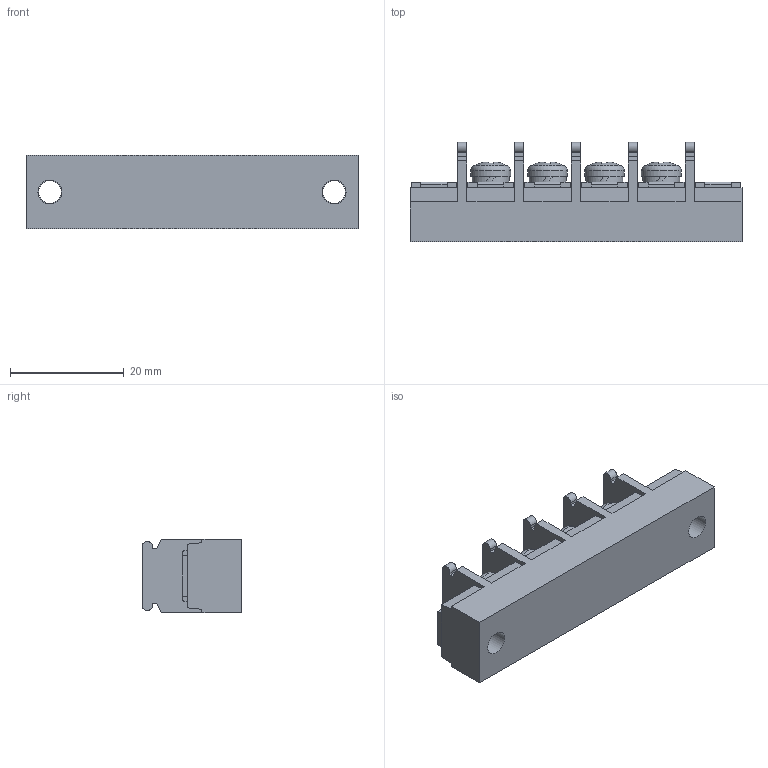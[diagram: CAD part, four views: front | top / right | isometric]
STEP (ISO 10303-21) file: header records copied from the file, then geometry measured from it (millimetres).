
FILE_DESCRIPTION(/* description */ ('Alibre Inc.'),/* implementation_level */ '2;1');
FILE_NAME(/* name */ 'export0',/* time_stamp */ '2015-10-17T18:39:33+09:00',/* author */ (''),/* organization */ (''),/* preprocessor_version */ 'ST-DEVELOPER v14',/* originating_system */ 'Alibre',/* authorisation */ '');
FILE_SCHEMA (('CONFIG_CONTROL_DESIGN'));
Length unit declared in the file: centimetre
Products named in the file (1): ID_1
Bounding box: 58.4 x 17.5 x 13 mm (x, y, z)
Volume: 8297 mm3; surface area: 4914.7 mm2
Topology: 1 solids, 17 shells, 672 faces, 1808 edges, 1202 vertices
Faces by surface type: plane 502, bspline 104, cylinder 38, cone 16, torus 8, sphere 4
Full cylindrical faces by diameter (mm): 4 x6, 4.2 x2, 6.5 x4, 7 x4
Entity records: 20357 total; most frequent: CARTESIAN_POINT 4691, ORIENTED_EDGE 3548, DIRECTION 2354, EDGE_CURVE 1774, VECTOR 1346, LINE 1346, VERTEX_POINT 1188, AXIS2_PLACEMENT_3D 749
